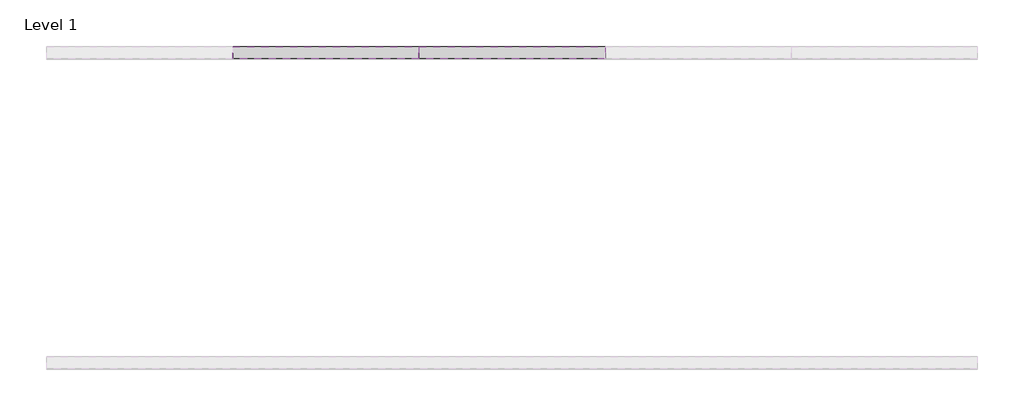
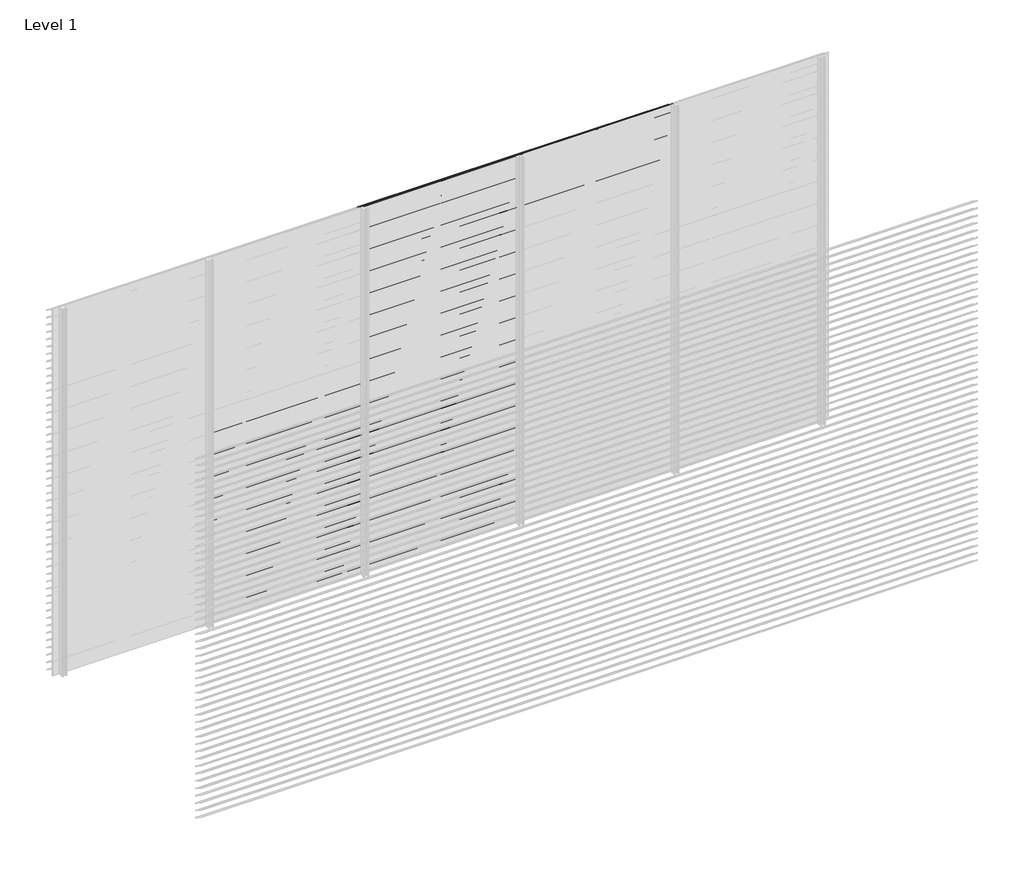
# One storey, part 85 of 153: 84 proxies.
"""IFC4 building model written with IfcOpenShell, lengths in millimetres."""

from ifc_helpers import new_model, si_unit, frame, origin, place, context, project, spatial, polyline, outline, extrude, element, save

model = new_model("IFC4")

# Units and contexts
model_context = context("Model", 3, world=origin())
ifc_project = project(units=[si_unit("LENGTHUNIT", "METRE", prefix="MILLI")], contexts=[model_context])

# Site, building, storey
site = spatial("IfcSite", under=ifc_project)
building = spatial("IfcBuilding", under=site)
storey = spatial("IfcBuildingStorey", under=building, Name="Level 1", Elevation=0.0)

# Proxies
placement = place(None, origin())
element("IfcBuildingElementProxy", 1, Name="Wall Sweeps", at=placement, inside=storey, context=model_context, shape_type="SweptSolid", body=[
    extrude(outline(polyline([(59061.0540136, 1506.0), (59061.0540136, 1500.0), (59059.8040136, 1500.7216933), (59059.8040136, 1505.2538091), (58983.0540136, 1553.9915103), (58983.0540136, 1560.0), (58984.3040136, 1560.0), (58984.3040136, 1554.7377012), (59061.0540136, 1506.0)])), frame((1666.6208099, 0.0, 0.0), z_axis=(1.0, 0.0, 0.0), x_axis=(0.0, 1.0, 0.0)), (0.0, 0.0, 1.0), 1199.9999999),
])
element("IfcBuildingElementProxy", 2, Name="Wall Sweeps", at=placement, inside=storey, context=model_context, shape_type="SweptSolid", body=[
    extrude(outline(polyline([(59061.0540136, 1446.0), (59061.0540136, 1440.0), (59059.8040136, 1440.7216933), (59059.8040136, 1445.2538091), (58983.0540136, 1493.9915103), (58983.0540136, 1500.0), (58984.3040136, 1500.0), (58984.3040136, 1494.7377012), (59061.0540136, 1446.0)])), frame((1666.6208099, 0.0, 0.0), z_axis=(1.0, 0.0, 0.0), x_axis=(0.0, 1.0, 0.0)), (0.0, 0.0, 1.0), 1199.9999999),
])
element("IfcBuildingElementProxy", 3, Name="Wall Sweeps", at=placement, inside=storey, context=model_context, shape_type="SweptSolid", body=[
    extrude(outline(polyline([(59061.0540136, 1386.0), (59061.0540136, 1380.0), (59059.8040136, 1380.7216933), (59059.8040136, 1385.2538091), (58983.0540136, 1433.9915103), (58983.0540136, 1440.0), (58984.3040136, 1440.0), (58984.3040136, 1434.7377012), (59061.0540136, 1386.0)])), frame((1666.6208099, 0.0, 0.0), z_axis=(1.0, 0.0, 0.0), x_axis=(0.0, 1.0, 0.0)), (0.0, 0.0, 1.0), 1199.9999999),
])
element("IfcBuildingElementProxy", 4, Name="Wall Sweeps", at=placement, inside=storey, context=model_context, shape_type="SweptSolid", body=[
    extrude(outline(polyline([(59061.0540136, 1326.0), (59061.0540136, 1320.0), (59059.8040136, 1320.7216933), (59059.8040136, 1325.2538091), (58983.0540136, 1373.9915103), (58983.0540136, 1380.0), (58984.3040136, 1380.0), (58984.3040136, 1374.7377012), (59061.0540136, 1326.0)])), frame((1666.6208099, 0.0, 0.0), z_axis=(1.0, 0.0, 0.0), x_axis=(0.0, 1.0, 0.0)), (0.0, 0.0, 1.0), 1199.9999999),
])
element("IfcBuildingElementProxy", 5, Name="Wall Sweeps", at=placement, inside=storey, context=model_context, shape_type="SweptSolid", body=[
    extrude(outline(polyline([(59061.0540136, 1266.0), (59061.0540136, 1260.0), (59059.8040136, 1260.7216933), (59059.8040136, 1265.2538091), (58983.0540136, 1313.9915103), (58983.0540136, 1320.0), (58984.3040136, 1320.0), (58984.3040136, 1314.7377012), (59061.0540136, 1266.0)])), frame((1666.6208099, 0.0, 0.0), z_axis=(1.0, 0.0, 0.0), x_axis=(0.0, 1.0, 0.0)), (0.0, 0.0, 1.0), 1199.9999999),
])
element("IfcBuildingElementProxy", 6, Name="Wall Sweeps", at=placement, inside=storey, context=model_context, shape_type="SweptSolid", body=[
    extrude(outline(polyline([(59061.0540136, 1206.0), (59061.0540136, 1200.0), (59059.8040136, 1200.7216933), (59059.8040136, 1205.2538091), (58983.0540136, 1253.9915103), (58983.0540136, 1260.0), (58984.3040136, 1260.0), (58984.3040136, 1254.7377012), (59061.0540136, 1206.0)])), frame((1666.6208099, 0.0, 0.0), z_axis=(1.0, 0.0, 0.0), x_axis=(0.0, 1.0, 0.0)), (0.0, 0.0, 1.0), 1199.9999999),
])
element("IfcBuildingElementProxy", 7, Name="Wall Sweeps", at=placement, inside=storey, context=model_context, shape_type="SweptSolid", body=[
    extrude(outline(polyline([(59061.0540136, 1146.0), (59061.0540136, 1140.0), (59059.8040136, 1140.7216933), (59059.8040136, 1145.2538091), (58983.0540136, 1193.9915103), (58983.0540136, 1200.0), (58984.3040136, 1200.0), (58984.3040136, 1194.7377012), (59061.0540136, 1146.0)])), frame((1666.6208099, 0.0, 0.0), z_axis=(1.0, 0.0, 0.0), x_axis=(0.0, 1.0, 0.0)), (0.0, 0.0, 1.0), 1199.9999999),
])
element("IfcBuildingElementProxy", 8, Name="Wall Sweeps", at=placement, inside=storey, context=model_context, shape_type="SweptSolid", body=[
    extrude(outline(polyline([(59061.0540136, 1086.0), (59061.0540136, 1080.0), (59059.8040136, 1080.7216933), (59059.8040136, 1085.2538091), (58983.0540136, 1133.9915103), (58983.0540136, 1140.0), (58984.3040136, 1140.0), (58984.3040136, 1134.7377012), (59061.0540136, 1086.0)])), frame((1666.6208099, 0.0, 0.0), z_axis=(1.0, 0.0, 0.0), x_axis=(0.0, 1.0, 0.0)), (0.0, 0.0, 1.0), 1199.9999999),
])
element("IfcBuildingElementProxy", 9, Name="Wall Sweeps", at=placement, inside=storey, context=model_context, shape_type="SweptSolid", body=[
    extrude(outline(polyline([(59061.0540136, 1026.0), (59061.0540136, 1020.0), (59059.8040136, 1020.7216933), (59059.8040136, 1025.2538091), (58983.0540136, 1073.9915103), (58983.0540136, 1080.0), (58984.3040136, 1080.0), (58984.3040136, 1074.7377012), (59061.0540136, 1026.0)])), frame((1666.6208099, 0.0, 0.0), z_axis=(1.0, 0.0, 0.0), x_axis=(0.0, 1.0, 0.0)), (0.0, 0.0, 1.0), 1199.9999999),
])
element("IfcBuildingElementProxy", 10, Name="Wall Sweeps", at=placement, inside=storey, context=model_context, shape_type="SweptSolid", body=[
    extrude(outline(polyline([(59061.0540136, 966.0), (59061.0540136, 960.0), (59059.8040136, 960.7216933), (59059.8040136, 965.2538091), (58983.0540136, 1013.9915103), (58983.0540136, 1020.0), (58984.3040136, 1020.0), (58984.3040136, 1014.7377012), (59061.0540136, 966.0)])), frame((1666.6208099, 0.0, 0.0), z_axis=(1.0, 0.0, 0.0), x_axis=(0.0, 1.0, 0.0)), (0.0, 0.0, 1.0), 1199.9999999),
])
element("IfcBuildingElementProxy", 11, Name="Wall Sweeps", at=placement, inside=storey, context=model_context, shape_type="SweptSolid", body=[
    extrude(outline(polyline([(59061.0540136, 906.0), (59061.0540136, 900.0), (59059.8040136, 900.7216933), (59059.8040136, 905.2538091), (58983.0540136, 953.9915103), (58983.0540136, 960.0), (58984.3040136, 960.0), (58984.3040136, 954.7377012), (59061.0540136, 906.0)])), frame((1666.6208099, 0.0, 0.0), z_axis=(1.0, 0.0, 0.0), x_axis=(0.0, 1.0, 0.0)), (0.0, 0.0, 1.0), 1199.9999999),
])
element("IfcBuildingElementProxy", 12, Name="Wall Sweeps", at=placement, inside=storey, context=model_context, shape_type="SweptSolid", body=[
    extrude(outline(polyline([(59061.0540136, 846.0), (59061.0540136, 840.0), (59059.8040136, 840.7216933), (59059.8040136, 845.2538091), (58983.0540136, 893.9915103), (58983.0540136, 900.0), (58984.3040136, 900.0), (58984.3040136, 894.7377012), (59061.0540136, 846.0)])), frame((1666.6208099, 0.0, 0.0), z_axis=(1.0, 0.0, 0.0), x_axis=(0.0, 1.0, 0.0)), (0.0, 0.0, 1.0), 1199.9999999),
])
element("IfcBuildingElementProxy", 13, Name="Wall Sweeps", at=placement, inside=storey, context=model_context, shape_type="SweptSolid", body=[
    extrude(outline(polyline([(59061.0540136, 786.0), (59061.0540136, 780.0), (59059.8040136, 780.7216933), (59059.8040136, 785.2538091), (58983.0540136, 833.9915103), (58983.0540136, 840.0), (58984.3040136, 840.0), (58984.3040136, 834.7377012), (59061.0540136, 786.0)])), frame((1666.6208099, 0.0, 0.0), z_axis=(1.0, 0.0, 0.0), x_axis=(0.0, 1.0, 0.0)), (0.0, 0.0, 1.0), 1199.9999999),
])
element("IfcBuildingElementProxy", 14, Name="Wall Sweeps", at=placement, inside=storey, context=model_context, shape_type="SweptSolid", body=[
    extrude(outline(polyline([(59061.0540136, 726.0), (59061.0540136, 720.0), (59059.8040136, 720.7216933), (59059.8040136, 725.2538091), (58983.0540136, 773.9915103), (58983.0540136, 780.0), (58984.3040136, 780.0), (58984.3040136, 774.7377012), (59061.0540136, 726.0)])), frame((1666.6208099, 0.0, 0.0), z_axis=(1.0, 0.0, 0.0), x_axis=(0.0, 1.0, 0.0)), (0.0, 0.0, 1.0), 1199.9999999),
])
element("IfcBuildingElementProxy", 15, Name="Wall Sweeps", at=placement, inside=storey, context=model_context, shape_type="SweptSolid", body=[
    extrude(outline(polyline([(59061.0540136, 666.0), (59061.0540136, 660.0), (59059.8040136, 660.7216933), (59059.8040136, 665.2538091), (58983.0540136, 713.9915103), (58983.0540136, 720.0), (58984.3040136, 720.0), (58984.3040136, 714.7377012), (59061.0540136, 666.0)])), frame((1666.6208099, 0.0, 0.0), z_axis=(1.0, 0.0, 0.0), x_axis=(0.0, 1.0, 0.0)), (0.0, 0.0, 1.0), 1199.9999999),
])
element("IfcBuildingElementProxy", 16, Name="Wall Sweeps", at=placement, inside=storey, context=model_context, shape_type="SweptSolid", body=[
    extrude(outline(polyline([(59061.0540136, 606.0), (59061.0540136, 600.0), (59059.8040136, 600.7216933), (59059.8040136, 605.2538091), (58983.0540136, 653.9915103), (58983.0540136, 660.0), (58984.3040136, 660.0), (58984.3040136, 654.7377012), (59061.0540136, 606.0)])), frame((1666.6208099, 0.0, 0.0), z_axis=(1.0, 0.0, 0.0), x_axis=(0.0, 1.0, 0.0)), (0.0, 0.0, 1.0), 1199.9999999),
])
element("IfcBuildingElementProxy", 17, Name="Wall Sweeps", at=placement, inside=storey, context=model_context, shape_type="SweptSolid", body=[
    extrude(outline(polyline([(59061.0540136, 546.0), (59061.0540136, 540.0), (59059.8040136, 540.7216933), (59059.8040136, 545.2538091), (58983.0540136, 593.9915103), (58983.0540136, 600.0), (58984.3040136, 600.0), (58984.3040136, 594.7377012), (59061.0540136, 546.0)])), frame((1666.6208099, 0.0, 0.0), z_axis=(1.0, 0.0, 0.0), x_axis=(0.0, 1.0, 0.0)), (0.0, 0.0, 1.0), 1199.9999999),
])
element("IfcBuildingElementProxy", 18, Name="Wall Sweeps", at=placement, inside=storey, context=model_context, shape_type="SweptSolid", body=[
    extrude(outline(polyline([(59061.0540136, 486.0), (59061.0540136, 480.0), (59059.8040136, 480.7216933), (59059.8040136, 485.2538091), (58983.0540136, 533.9915103), (58983.0540136, 540.0), (58984.3040136, 540.0), (58984.3040136, 534.7377012), (59061.0540136, 486.0)])), frame((1666.6208099, 0.0, 0.0), z_axis=(1.0, 0.0, 0.0), x_axis=(0.0, 1.0, 0.0)), (0.0, 0.0, 1.0), 1199.9999999),
])
element("IfcBuildingElementProxy", 19, Name="Wall Sweeps", at=placement, inside=storey, context=model_context, shape_type="SweptSolid", body=[
    extrude(outline(polyline([(59061.0540136, 426.0), (59061.0540136, 420.0), (59059.8040136, 420.7216933), (59059.8040136, 425.2538091), (58983.0540136, 473.9915103), (58983.0540136, 480.0), (58984.3040136, 480.0), (58984.3040136, 474.7377012), (59061.0540136, 426.0)])), frame((1666.6208099, 0.0, 0.0), z_axis=(1.0, 0.0, 0.0), x_axis=(0.0, 1.0, 0.0)), (0.0, 0.0, 1.0), 1199.9999999),
])
element("IfcBuildingElementProxy", 20, Name="Wall Sweeps", at=placement, inside=storey, context=model_context, shape_type="SweptSolid", body=[
    extrude(outline(polyline([(59061.0540136, 366.0), (59061.0540136, 360.0), (59059.8040136, 360.7216933), (59059.8040136, 365.2538091), (58983.0540136, 413.9915103), (58983.0540136, 420.0), (58984.3040136, 420.0), (58984.3040136, 414.7377012), (59061.0540136, 366.0)])), frame((1666.6208099, 0.0, 0.0), z_axis=(1.0, 0.0, 0.0), x_axis=(0.0, 1.0, 0.0)), (0.0, 0.0, 1.0), 1199.9999999),
])
element("IfcBuildingElementProxy", 21, Name="Wall Sweeps", at=placement, inside=storey, context=model_context, shape_type="SweptSolid", body=[
    extrude(outline(polyline([(59061.0540136, 306.0), (59061.0540136, 300.0), (59059.8040136, 300.7216933), (59059.8040136, 305.2538091), (58983.0540136, 353.9915103), (58983.0540136, 360.0), (58984.3040136, 360.0), (58984.3040136, 354.7377012), (59061.0540136, 306.0)])), frame((1666.6208099, 0.0, 0.0), z_axis=(1.0, 0.0, 0.0), x_axis=(0.0, 1.0, 0.0)), (0.0, 0.0, 1.0), 1199.9999999),
])
element("IfcBuildingElementProxy", 22, Name="Wall Sweeps", at=placement, inside=storey, context=model_context, shape_type="SweptSolid", body=[
    extrude(outline(polyline([(59061.0540136, 246.0), (59061.0540136, 240.0), (59059.8040136, 240.7216933), (59059.8040136, 245.2538091), (58983.0540136, 293.9915103), (58983.0540136, 300.0), (58984.3040136, 300.0), (58984.3040136, 294.7377012), (59061.0540136, 246.0)])), frame((1666.6208099, 0.0, 0.0), z_axis=(1.0, 0.0, 0.0), x_axis=(0.0, 1.0, 0.0)), (0.0, 0.0, 1.0), 1199.9999999),
])
element("IfcBuildingElementProxy", 23, Name="Wall Sweeps", at=placement, inside=storey, context=model_context, shape_type="SweptSolid", body=[
    extrude(outline(polyline([(59061.0540136, 186.0), (59061.0540136, 180.0), (59059.8040136, 180.7216933), (59059.8040136, 185.2538091), (58983.0540136, 233.9915103), (58983.0540136, 240.0), (58984.3040136, 240.0), (58984.3040136, 234.7377012), (59061.0540136, 186.0)])), frame((1666.6208099, 0.0, 0.0), z_axis=(1.0, 0.0, 0.0), x_axis=(0.0, 1.0, 0.0)), (0.0, 0.0, 1.0), 1199.9999999),
])
element("IfcBuildingElementProxy", 24, Name="Wall Sweeps", at=placement, inside=storey, context=model_context, shape_type="SweptSolid", body=[
    extrude(outline(polyline([(59061.0540136, 126.0), (59061.0540136, 120.0), (59059.8040136, 120.7216933), (59059.8040136, 125.2538091), (58983.0540136, 173.9915103), (58983.0540136, 180.0), (58984.3040136, 180.0), (58984.3040136, 174.7377012), (59061.0540136, 126.0)])), frame((1666.6208099, 0.0, 0.0), z_axis=(1.0, 0.0, 0.0), x_axis=(0.0, 1.0, 0.0)), (0.0, 0.0, 1.0), 1199.9999999),
])
element("IfcBuildingElementProxy", 25, Name="Wall Sweeps", at=placement, inside=storey, context=model_context, shape_type="SweptSolid", body=[
    extrude(outline(polyline([(59061.0540136, 66.0), (59061.0540136, 60.0), (59059.8040136, 60.7216933), (59059.8040136, 65.2538091), (58983.0540136, 113.9915103), (58983.0540136, 120.0), (58984.3040136, 120.0), (58984.3040136, 114.7377012), (59061.0540136, 66.0)])), frame((1666.6208099, 0.0, 0.0), z_axis=(1.0, 0.0, 0.0), x_axis=(0.0, 1.0, 0.0)), (0.0, 0.0, 1.0), 1199.9999999),
])
element("IfcBuildingElementProxy", 26, Name="Wall Sweeps", at=placement, inside=storey, context=model_context, shape_type="SweptSolid", body=[
    extrude(outline(polyline([(59061.0540136, 6.0), (59061.0540136, 0.0), (59059.8040136, 0.7216933), (59059.8040136, 5.2538091), (58983.0540136, 53.9915103), (58983.0540136, 60.0), (58984.3040136, 60.0), (58984.3040136, 54.7377012), (59061.0540136, 6.0)])), frame((1666.6208099, 0.0, 0.0), z_axis=(1.0, 0.0, 0.0), x_axis=(0.0, 1.0, 0.0)), (0.0, 0.0, 1.0), 1199.9999999),
])
element("IfcBuildingElementProxy", 27, Name="Wall Sweeps", at=placement, inside=storey, context=model_context, shape_type="SweptSolid", body=[
    extrude(outline(polyline([(59061.0540136, 2946.0), (59061.0540136, 2940.0), (59059.8040136, 2940.7216933), (59059.8040136, 2945.2538091), (58983.0540136, 2993.9915103), (58983.0540136, 3000.0), (58984.3040136, 3000.0), (58984.3040136, 2994.7377012), (59061.0540136, 2946.0)])), frame((2866.6208097, 0.0, 0.0), z_axis=(1.0, 0.0, 0.0), x_axis=(0.0, 1.0, 0.0)), (0.0, 0.0, 1.0), 1199.9999999),
])
element("IfcBuildingElementProxy", 28, Name="Wall Sweeps", at=placement, inside=storey, context=model_context, shape_type="SweptSolid", body=[
    extrude(outline(polyline([(59061.0540136, 2886.0), (59061.0540136, 2880.0), (59059.8040136, 2880.7216933), (59059.8040136, 2885.2538091), (58983.0540136, 2933.9915103), (58983.0540136, 2940.0), (58984.3040136, 2940.0), (58984.3040136, 2934.7377012), (59061.0540136, 2886.0)])), frame((2866.6208097, 0.0, 0.0), z_axis=(1.0, 0.0, 0.0), x_axis=(0.0, 1.0, 0.0)), (0.0, 0.0, 1.0), 1199.9999999),
])
element("IfcBuildingElementProxy", 29, Name="Wall Sweeps", at=placement, inside=storey, context=model_context, shape_type="SweptSolid", body=[
    extrude(outline(polyline([(59061.0540136, 2826.0), (59061.0540136, 2820.0), (59059.8040136, 2820.7216933), (59059.8040136, 2825.2538091), (58983.0540136, 2873.9915103), (58983.0540136, 2880.0), (58984.3040136, 2880.0), (58984.3040136, 2874.7377012), (59061.0540136, 2826.0)])), frame((2866.6208097, 0.0, 0.0), z_axis=(1.0, 0.0, 0.0), x_axis=(0.0, 1.0, 0.0)), (0.0, 0.0, 1.0), 1199.9999999),
])
element("IfcBuildingElementProxy", 30, Name="Wall Sweeps", at=placement, inside=storey, context=model_context, shape_type="SweptSolid", body=[
    extrude(outline(polyline([(59061.0540136, 2766.0), (59061.0540136, 2760.0), (59059.8040136, 2760.7216933), (59059.8040136, 2765.2538091), (58983.0540136, 2813.9915103), (58983.0540136, 2820.0), (58984.3040136, 2820.0), (58984.3040136, 2814.7377012), (59061.0540136, 2766.0)])), frame((2866.6208097, 0.0, 0.0), z_axis=(1.0, 0.0, 0.0), x_axis=(0.0, 1.0, 0.0)), (0.0, 0.0, 1.0), 1199.9999999),
])
element("IfcBuildingElementProxy", 31, Name="Wall Sweeps", at=placement, inside=storey, context=model_context, shape_type="SweptSolid", body=[
    extrude(outline(polyline([(59061.0540136, 2706.0), (59061.0540136, 2700.0), (59059.8040136, 2700.7216933), (59059.8040136, 2705.2538091), (58983.0540136, 2753.9915103), (58983.0540136, 2760.0), (58984.3040136, 2760.0), (58984.3040136, 2754.7377012), (59061.0540136, 2706.0)])), frame((2866.6208097, 0.0, 0.0), z_axis=(1.0, 0.0, 0.0), x_axis=(0.0, 1.0, 0.0)), (0.0, 0.0, 1.0), 1199.9999999),
])
element("IfcBuildingElementProxy", 32, Name="Wall Sweeps", at=placement, inside=storey, context=model_context, shape_type="SweptSolid", body=[
    extrude(outline(polyline([(59061.0540136, 2646.0), (59061.0540136, 2640.0), (59059.8040136, 2640.7216933), (59059.8040136, 2645.2538091), (58983.0540136, 2693.9915103), (58983.0540136, 2700.0), (58984.3040136, 2700.0), (58984.3040136, 2694.7377012), (59061.0540136, 2646.0)])), frame((2866.6208097, 0.0, 0.0), z_axis=(1.0, 0.0, 0.0), x_axis=(0.0, 1.0, 0.0)), (0.0, 0.0, 1.0), 1199.9999999),
])
element("IfcBuildingElementProxy", 33, Name="Wall Sweeps", at=placement, inside=storey, context=model_context, shape_type="SweptSolid", body=[
    extrude(outline(polyline([(59061.0540136, 2586.0), (59061.0540136, 2580.0), (59059.8040136, 2580.7216933), (59059.8040136, 2585.2538091), (58983.0540136, 2633.9915103), (58983.0540136, 2640.0), (58984.3040136, 2640.0), (58984.3040136, 2634.7377012), (59061.0540136, 2586.0)])), frame((2866.6208097, 0.0, 0.0), z_axis=(1.0, 0.0, 0.0), x_axis=(0.0, 1.0, 0.0)), (0.0, 0.0, 1.0), 1199.9999999),
])
element("IfcBuildingElementProxy", 34, Name="Wall Sweeps", at=placement, inside=storey, context=model_context, shape_type="SweptSolid", body=[
    extrude(outline(polyline([(59061.0540136, 2526.0), (59061.0540136, 2520.0), (59059.8040136, 2520.7216933), (59059.8040136, 2525.2538091), (58983.0540136, 2573.9915103), (58983.0540136, 2580.0), (58984.3040136, 2580.0), (58984.3040136, 2574.7377012), (59061.0540136, 2526.0)])), frame((2866.6208097, 0.0, 0.0), z_axis=(1.0, 0.0, 0.0), x_axis=(0.0, 1.0, 0.0)), (0.0, 0.0, 1.0), 1199.9999999),
])
element("IfcBuildingElementProxy", 35, Name="Wall Sweeps", at=placement, inside=storey, context=model_context, shape_type="SweptSolid", body=[
    extrude(outline(polyline([(59061.0540136, 2466.0), (59061.0540136, 2460.0), (59059.8040136, 2460.7216933), (59059.8040136, 2465.2538091), (58983.0540136, 2513.9915103), (58983.0540136, 2520.0), (58984.3040136, 2520.0), (58984.3040136, 2514.7377012), (59061.0540136, 2466.0)])), frame((2866.6208097, 0.0, 0.0), z_axis=(1.0, 0.0, 0.0), x_axis=(0.0, 1.0, 0.0)), (0.0, 0.0, 1.0), 1199.9999999),
])
element("IfcBuildingElementProxy", 36, Name="Wall Sweeps", at=placement, inside=storey, context=model_context, shape_type="SweptSolid", body=[
    extrude(outline(polyline([(59061.0540136, 2406.0), (59061.0540136, 2400.0), (59059.8040136, 2400.7216933), (59059.8040136, 2405.2538091), (58983.0540136, 2453.9915103), (58983.0540136, 2460.0), (58984.3040136, 2460.0), (58984.3040136, 2454.7377012), (59061.0540136, 2406.0)])), frame((2866.6208097, 0.0, 0.0), z_axis=(1.0, 0.0, 0.0), x_axis=(0.0, 1.0, 0.0)), (0.0, 0.0, 1.0), 1199.9999999),
])
element("IfcBuildingElementProxy", 37, Name="Wall Sweeps", at=placement, inside=storey, context=model_context, shape_type="SweptSolid", body=[
    extrude(outline(polyline([(59061.0540136, 2346.0), (59061.0540136, 2340.0), (59059.8040136, 2340.7216933), (59059.8040136, 2345.2538091), (58983.0540136, 2393.9915103), (58983.0540136, 2400.0), (58984.3040136, 2400.0), (58984.3040136, 2394.7377012), (59061.0540136, 2346.0)])), frame((2866.6208097, 0.0, 0.0), z_axis=(1.0, 0.0, 0.0), x_axis=(0.0, 1.0, 0.0)), (0.0, 0.0, 1.0), 1199.9999999),
])
element("IfcBuildingElementProxy", 38, Name="Wall Sweeps", at=placement, inside=storey, context=model_context, shape_type="SweptSolid", body=[
    extrude(outline(polyline([(59061.0540136, 2286.0), (59061.0540136, 2280.0), (59059.8040136, 2280.7216933), (59059.8040136, 2285.2538091), (58983.0540136, 2333.9915103), (58983.0540136, 2340.0), (58984.3040136, 2340.0), (58984.3040136, 2334.7377012), (59061.0540136, 2286.0)])), frame((2866.6208097, 0.0, 0.0), z_axis=(1.0, 0.0, 0.0), x_axis=(0.0, 1.0, 0.0)), (0.0, 0.0, 1.0), 1199.9999999),
])
element("IfcBuildingElementProxy", 39, Name="Wall Sweeps", at=placement, inside=storey, context=model_context, shape_type="SweptSolid", body=[
    extrude(outline(polyline([(59061.0540136, 2226.0), (59061.0540136, 2220.0), (59059.8040136, 2220.7216933), (59059.8040136, 2225.2538091), (58983.0540136, 2273.9915103), (58983.0540136, 2280.0), (58984.3040136, 2280.0), (58984.3040136, 2274.7377012), (59061.0540136, 2226.0)])), frame((2866.6208097, 0.0, 0.0), z_axis=(1.0, 0.0, 0.0), x_axis=(0.0, 1.0, 0.0)), (0.0, 0.0, 1.0), 1199.9999999),
])
element("IfcBuildingElementProxy", 40, Name="Wall Sweeps", at=placement, inside=storey, context=model_context, shape_type="SweptSolid", body=[
    extrude(outline(polyline([(59061.0540136, 2166.0), (59061.0540136, 2160.0), (59059.8040136, 2160.7216933), (59059.8040136, 2165.2538091), (58983.0540136, 2213.9915103), (58983.0540136, 2220.0), (58984.3040136, 2220.0), (58984.3040136, 2214.7377012), (59061.0540136, 2166.0)])), frame((2866.6208097, 0.0, 0.0), z_axis=(1.0, 0.0, 0.0), x_axis=(0.0, 1.0, 0.0)), (0.0, 0.0, 1.0), 1199.9999999),
])
element("IfcBuildingElementProxy", 41, Name="Wall Sweeps", at=placement, inside=storey, context=model_context, shape_type="SweptSolid", body=[
    extrude(outline(polyline([(59061.0540136, 2106.0), (59061.0540136, 2100.0), (59059.8040136, 2100.7216933), (59059.8040136, 2105.2538091), (58983.0540136, 2153.9915103), (58983.0540136, 2160.0), (58984.3040136, 2160.0), (58984.3040136, 2154.7377012), (59061.0540136, 2106.0)])), frame((2866.6208097, 0.0, 0.0), z_axis=(1.0, 0.0, 0.0), x_axis=(0.0, 1.0, 0.0)), (0.0, 0.0, 1.0), 1199.9999999),
])
element("IfcBuildingElementProxy", 42, Name="Wall Sweeps", at=placement, inside=storey, context=model_context, shape_type="SweptSolid", body=[
    extrude(outline(polyline([(59061.0540136, 2046.0), (59061.0540136, 2040.0), (59059.8040136, 2040.7216933), (59059.8040136, 2045.2538091), (58983.0540136, 2093.9915103), (58983.0540136, 2100.0), (58984.3040136, 2100.0), (58984.3040136, 2094.7377012), (59061.0540136, 2046.0)])), frame((2866.6208097, 0.0, 0.0), z_axis=(1.0, 0.0, 0.0), x_axis=(0.0, 1.0, 0.0)), (0.0, 0.0, 1.0), 1199.9999999),
])
element("IfcBuildingElementProxy", 43, Name="Wall Sweeps", at=placement, inside=storey, context=model_context, shape_type="SweptSolid", body=[
    extrude(outline(polyline([(59061.0540136, 1986.0), (59061.0540136, 1980.0), (59059.8040136, 1980.7216933), (59059.8040136, 1985.2538091), (58983.0540136, 2033.9915103), (58983.0540136, 2040.0), (58984.3040136, 2040.0), (58984.3040136, 2034.7377012), (59061.0540136, 1986.0)])), frame((2866.6208097, 0.0, 0.0), z_axis=(1.0, 0.0, 0.0), x_axis=(0.0, 1.0, 0.0)), (0.0, 0.0, 1.0), 1199.9999999),
])
element("IfcBuildingElementProxy", 44, Name="Wall Sweeps", at=placement, inside=storey, context=model_context, shape_type="SweptSolid", body=[
    extrude(outline(polyline([(59061.0540136, 1926.0), (59061.0540136, 1920.0), (59059.8040136, 1920.7216933), (59059.8040136, 1925.2538091), (58983.0540136, 1973.9915103), (58983.0540136, 1980.0), (58984.3040136, 1980.0), (58984.3040136, 1974.7377012), (59061.0540136, 1926.0)])), frame((2866.6208097, 0.0, 0.0), z_axis=(1.0, 0.0, 0.0), x_axis=(0.0, 1.0, 0.0)), (0.0, 0.0, 1.0), 1199.9999999),
])
element("IfcBuildingElementProxy", 45, Name="Wall Sweeps", at=placement, inside=storey, context=model_context, shape_type="SweptSolid", body=[
    extrude(outline(polyline([(59061.0540136, 1866.0), (59061.0540136, 1860.0), (59059.8040136, 1860.7216933), (59059.8040136, 1865.2538091), (58983.0540136, 1913.9915103), (58983.0540136, 1920.0), (58984.3040136, 1920.0), (58984.3040136, 1914.7377012), (59061.0540136, 1866.0)])), frame((2866.6208097, 0.0, 0.0), z_axis=(1.0, 0.0, 0.0), x_axis=(0.0, 1.0, 0.0)), (0.0, 0.0, 1.0), 1199.9999999),
])
element("IfcBuildingElementProxy", 46, Name="Wall Sweeps", at=placement, inside=storey, context=model_context, shape_type="SweptSolid", body=[
    extrude(outline(polyline([(59061.0540136, 1806.0), (59061.0540136, 1800.0), (59059.8040136, 1800.7216933), (59059.8040136, 1805.2538091), (58983.0540136, 1853.9915103), (58983.0540136, 1860.0), (58984.3040136, 1860.0), (58984.3040136, 1854.7377012), (59061.0540136, 1806.0)])), frame((2866.6208097, 0.0, 0.0), z_axis=(1.0, 0.0, 0.0), x_axis=(0.0, 1.0, 0.0)), (0.0, 0.0, 1.0), 1199.9999999),
])
element("IfcBuildingElementProxy", 47, Name="Wall Sweeps", at=placement, inside=storey, context=model_context, shape_type="SweptSolid", body=[
    extrude(outline(polyline([(59061.0540136, 1746.0), (59061.0540136, 1740.0), (59059.8040136, 1740.7216933), (59059.8040136, 1745.2538091), (58983.0540136, 1793.9915103), (58983.0540136, 1800.0), (58984.3040136, 1800.0), (58984.3040136, 1794.7377012), (59061.0540136, 1746.0)])), frame((2866.6208097, 0.0, 0.0), z_axis=(1.0, 0.0, 0.0), x_axis=(0.0, 1.0, 0.0)), (0.0, 0.0, 1.0), 1199.9999999),
])
element("IfcBuildingElementProxy", 48, Name="Wall Sweeps", at=placement, inside=storey, context=model_context, shape_type="SweptSolid", body=[
    extrude(outline(polyline([(59061.0540136, 1686.0), (59061.0540136, 1680.0), (59059.8040136, 1680.7216933), (59059.8040136, 1685.2538091), (58983.0540136, 1733.9915103), (58983.0540136, 1740.0), (58984.3040136, 1740.0), (58984.3040136, 1734.7377012), (59061.0540136, 1686.0)])), frame((2866.6208097, 0.0, 0.0), z_axis=(1.0, 0.0, 0.0), x_axis=(0.0, 1.0, 0.0)), (0.0, 0.0, 1.0), 1199.9999999),
])
element("IfcBuildingElementProxy", 49, Name="Wall Sweeps", at=placement, inside=storey, context=model_context, shape_type="SweptSolid", body=[
    extrude(outline(polyline([(59061.0540136, 1626.0), (59061.0540136, 1620.0), (59059.8040136, 1620.7216933), (59059.8040136, 1625.2538091), (58983.0540136, 1673.9915103), (58983.0540136, 1680.0), (58984.3040136, 1680.0), (58984.3040136, 1674.7377012), (59061.0540136, 1626.0)])), frame((2866.6208097, 0.0, 0.0), z_axis=(1.0, 0.0, 0.0), x_axis=(0.0, 1.0, 0.0)), (0.0, 0.0, 1.0), 1199.9999999),
])
element("IfcBuildingElementProxy", 50, Name="Wall Sweeps", at=placement, inside=storey, context=model_context, shape_type="SweptSolid", body=[
    extrude(outline(polyline([(59061.0540136, 1566.0), (59061.0540136, 1560.0), (59059.8040136, 1560.7216933), (59059.8040136, 1565.2538091), (58983.0540136, 1613.9915103), (58983.0540136, 1620.0), (58984.3040136, 1620.0), (58984.3040136, 1614.7377012), (59061.0540136, 1566.0)])), frame((2866.6208097, 0.0, 0.0), z_axis=(1.0, 0.0, 0.0), x_axis=(0.0, 1.0, 0.0)), (0.0, 0.0, 1.0), 1199.9999999),
])
element("IfcBuildingElementProxy", 51, Name="Wall Sweeps", at=placement, inside=storey, context=model_context, shape_type="SweptSolid", body=[
    extrude(outline(polyline([(59061.0540136, 1506.0), (59061.0540136, 1500.0), (59059.8040136, 1500.7216933), (59059.8040136, 1505.2538091), (58983.0540136, 1553.9915103), (58983.0540136, 1560.0), (58984.3040136, 1560.0), (58984.3040136, 1554.7377012), (59061.0540136, 1506.0)])), frame((2866.6208097, 0.0, 0.0), z_axis=(1.0, 0.0, 0.0), x_axis=(0.0, 1.0, 0.0)), (0.0, 0.0, 1.0), 1199.9999999),
])
element("IfcBuildingElementProxy", 52, Name="Wall Sweeps", at=placement, inside=storey, context=model_context, shape_type="SweptSolid", body=[
    extrude(outline(polyline([(59061.0540136, 1446.0), (59061.0540136, 1440.0), (59059.8040136, 1440.7216933), (59059.8040136, 1445.2538091), (58983.0540136, 1493.9915103), (58983.0540136, 1500.0), (58984.3040136, 1500.0), (58984.3040136, 1494.7377012), (59061.0540136, 1446.0)])), frame((2866.6208097, 0.0, 0.0), z_axis=(1.0, 0.0, 0.0), x_axis=(0.0, 1.0, 0.0)), (0.0, 0.0, 1.0), 1199.9999999),
])
element("IfcBuildingElementProxy", 53, Name="Wall Sweeps", at=placement, inside=storey, context=model_context, shape_type="SweptSolid", body=[
    extrude(outline(polyline([(59061.0540136, 1386.0), (59061.0540136, 1380.0), (59059.8040136, 1380.7216933), (59059.8040136, 1385.2538091), (58983.0540136, 1433.9915103), (58983.0540136, 1440.0), (58984.3040136, 1440.0), (58984.3040136, 1434.7377012), (59061.0540136, 1386.0)])), frame((2866.6208097, 0.0, 0.0), z_axis=(1.0, 0.0, 0.0), x_axis=(0.0, 1.0, 0.0)), (0.0, 0.0, 1.0), 1199.9999999),
])
element("IfcBuildingElementProxy", 54, Name="Wall Sweeps", at=placement, inside=storey, context=model_context, shape_type="SweptSolid", body=[
    extrude(outline(polyline([(59061.0540136, 1326.0), (59061.0540136, 1320.0), (59059.8040136, 1320.7216933), (59059.8040136, 1325.2538091), (58983.0540136, 1373.9915103), (58983.0540136, 1380.0), (58984.3040136, 1380.0), (58984.3040136, 1374.7377012), (59061.0540136, 1326.0)])), frame((2866.6208097, 0.0, 0.0), z_axis=(1.0, 0.0, 0.0), x_axis=(0.0, 1.0, 0.0)), (0.0, 0.0, 1.0), 1199.9999999),
])
element("IfcBuildingElementProxy", 55, Name="Wall Sweeps", at=placement, inside=storey, context=model_context, shape_type="SweptSolid", body=[
    extrude(outline(polyline([(59061.0540136, 1266.0), (59061.0540136, 1260.0), (59059.8040136, 1260.7216933), (59059.8040136, 1265.2538091), (58983.0540136, 1313.9915103), (58983.0540136, 1320.0), (58984.3040136, 1320.0), (58984.3040136, 1314.7377012), (59061.0540136, 1266.0)])), frame((2866.6208097, 0.0, 0.0), z_axis=(1.0, 0.0, 0.0), x_axis=(0.0, 1.0, 0.0)), (0.0, 0.0, 1.0), 1199.9999999),
])
element("IfcBuildingElementProxy", 56, Name="Wall Sweeps", at=placement, inside=storey, context=model_context, shape_type="SweptSolid", body=[
    extrude(outline(polyline([(59061.0540136, 1206.0), (59061.0540136, 1200.0), (59059.8040136, 1200.7216933), (59059.8040136, 1205.2538091), (58983.0540136, 1253.9915103), (58983.0540136, 1260.0), (58984.3040136, 1260.0), (58984.3040136, 1254.7377012), (59061.0540136, 1206.0)])), frame((2866.6208097, 0.0, 0.0), z_axis=(1.0, 0.0, 0.0), x_axis=(0.0, 1.0, 0.0)), (0.0, 0.0, 1.0), 1199.9999999),
])
element("IfcBuildingElementProxy", 57, Name="Wall Sweeps", at=placement, inside=storey, context=model_context, shape_type="SweptSolid", body=[
    extrude(outline(polyline([(59061.0540136, 1146.0), (59061.0540136, 1140.0), (59059.8040136, 1140.7216933), (59059.8040136, 1145.2538091), (58983.0540136, 1193.9915103), (58983.0540136, 1200.0), (58984.3040136, 1200.0), (58984.3040136, 1194.7377012), (59061.0540136, 1146.0)])), frame((2866.6208097, 0.0, 0.0), z_axis=(1.0, 0.0, 0.0), x_axis=(0.0, 1.0, 0.0)), (0.0, 0.0, 1.0), 1199.9999999),
])
element("IfcBuildingElementProxy", 58, Name="Wall Sweeps", at=placement, inside=storey, context=model_context, shape_type="SweptSolid", body=[
    extrude(outline(polyline([(59061.0540136, 1086.0), (59061.0540136, 1080.0), (59059.8040136, 1080.7216933), (59059.8040136, 1085.2538091), (58983.0540136, 1133.9915103), (58983.0540136, 1140.0), (58984.3040136, 1140.0), (58984.3040136, 1134.7377012), (59061.0540136, 1086.0)])), frame((2866.6208097, 0.0, 0.0), z_axis=(1.0, 0.0, 0.0), x_axis=(0.0, 1.0, 0.0)), (0.0, 0.0, 1.0), 1199.9999999),
])
element("IfcBuildingElementProxy", 59, Name="Wall Sweeps", at=placement, inside=storey, context=model_context, shape_type="SweptSolid", body=[
    extrude(outline(polyline([(59061.0540136, 1026.0), (59061.0540136, 1020.0), (59059.8040136, 1020.7216933), (59059.8040136, 1025.2538091), (58983.0540136, 1073.9915103), (58983.0540136, 1080.0), (58984.3040136, 1080.0), (58984.3040136, 1074.7377012), (59061.0540136, 1026.0)])), frame((2866.6208097, 0.0, 0.0), z_axis=(1.0, 0.0, 0.0), x_axis=(0.0, 1.0, 0.0)), (0.0, 0.0, 1.0), 1199.9999999),
])
element("IfcBuildingElementProxy", 60, Name="Wall Sweeps", at=placement, inside=storey, context=model_context, shape_type="SweptSolid", body=[
    extrude(outline(polyline([(59061.0540136, 966.0), (59061.0540136, 960.0), (59059.8040136, 960.7216933), (59059.8040136, 965.2538091), (58983.0540136, 1013.9915103), (58983.0540136, 1020.0), (58984.3040136, 1020.0), (58984.3040136, 1014.7377012), (59061.0540136, 966.0)])), frame((2866.6208097, 0.0, 0.0), z_axis=(1.0, 0.0, 0.0), x_axis=(0.0, 1.0, 0.0)), (0.0, 0.0, 1.0), 1199.9999999),
])
element("IfcBuildingElementProxy", 61, Name="Wall Sweeps", at=placement, inside=storey, context=model_context, shape_type="SweptSolid", body=[
    extrude(outline(polyline([(59061.0540136, 906.0), (59061.0540136, 900.0), (59059.8040136, 900.7216933), (59059.8040136, 905.2538091), (58983.0540136, 953.9915103), (58983.0540136, 960.0), (58984.3040136, 960.0), (58984.3040136, 954.7377012), (59061.0540136, 906.0)])), frame((2866.6208097, 0.0, 0.0), z_axis=(1.0, 0.0, 0.0), x_axis=(0.0, 1.0, 0.0)), (0.0, 0.0, 1.0), 1199.9999999),
])
element("IfcBuildingElementProxy", 62, Name="Wall Sweeps", at=placement, inside=storey, context=model_context, shape_type="SweptSolid", body=[
    extrude(outline(polyline([(59061.0540136, 846.0), (59061.0540136, 840.0), (59059.8040136, 840.7216933), (59059.8040136, 845.2538091), (58983.0540136, 893.9915103), (58983.0540136, 900.0), (58984.3040136, 900.0), (58984.3040136, 894.7377012), (59061.0540136, 846.0)])), frame((2866.6208097, 0.0, 0.0), z_axis=(1.0, 0.0, 0.0), x_axis=(0.0, 1.0, 0.0)), (0.0, 0.0, 1.0), 1199.9999999),
])
element("IfcBuildingElementProxy", 63, Name="Wall Sweeps", at=placement, inside=storey, context=model_context, shape_type="SweptSolid", body=[
    extrude(outline(polyline([(59061.0540136, 786.0), (59061.0540136, 780.0), (59059.8040136, 780.7216933), (59059.8040136, 785.2538091), (58983.0540136, 833.9915103), (58983.0540136, 840.0), (58984.3040136, 840.0), (58984.3040136, 834.7377012), (59061.0540136, 786.0)])), frame((2866.6208097, 0.0, 0.0), z_axis=(1.0, 0.0, 0.0), x_axis=(0.0, 1.0, 0.0)), (0.0, 0.0, 1.0), 1199.9999999),
])
element("IfcBuildingElementProxy", 64, Name="Wall Sweeps", at=placement, inside=storey, context=model_context, shape_type="SweptSolid", body=[
    extrude(outline(polyline([(59061.0540136, 726.0), (59061.0540136, 720.0), (59059.8040136, 720.7216933), (59059.8040136, 725.2538091), (58983.0540136, 773.9915103), (58983.0540136, 780.0), (58984.3040136, 780.0), (58984.3040136, 774.7377012), (59061.0540136, 726.0)])), frame((2866.6208097, 0.0, 0.0), z_axis=(1.0, 0.0, 0.0), x_axis=(0.0, 1.0, 0.0)), (0.0, 0.0, 1.0), 1199.9999999),
])
element("IfcBuildingElementProxy", 65, Name="Wall Sweeps", at=placement, inside=storey, context=model_context, shape_type="SweptSolid", body=[
    extrude(outline(polyline([(59061.0540136, 666.0), (59061.0540136, 660.0), (59059.8040136, 660.7216933), (59059.8040136, 665.2538091), (58983.0540136, 713.9915103), (58983.0540136, 720.0), (58984.3040136, 720.0), (58984.3040136, 714.7377012), (59061.0540136, 666.0)])), frame((2866.6208097, 0.0, 0.0), z_axis=(1.0, 0.0, 0.0), x_axis=(0.0, 1.0, 0.0)), (0.0, 0.0, 1.0), 1199.9999999),
])
element("IfcBuildingElementProxy", 66, Name="Wall Sweeps", at=placement, inside=storey, context=model_context, shape_type="SweptSolid", body=[
    extrude(outline(polyline([(59061.0540136, 606.0), (59061.0540136, 600.0), (59059.8040136, 600.7216933), (59059.8040136, 605.2538091), (58983.0540136, 653.9915103), (58983.0540136, 660.0), (58984.3040136, 660.0), (58984.3040136, 654.7377012), (59061.0540136, 606.0)])), frame((2866.6208097, 0.0, 0.0), z_axis=(1.0, 0.0, 0.0), x_axis=(0.0, 1.0, 0.0)), (0.0, 0.0, 1.0), 1199.9999999),
])
element("IfcBuildingElementProxy", 67, Name="Wall Sweeps", at=placement, inside=storey, context=model_context, shape_type="SweptSolid", body=[
    extrude(outline(polyline([(59061.0540136, 546.0), (59061.0540136, 540.0), (59059.8040136, 540.7216933), (59059.8040136, 545.2538091), (58983.0540136, 593.9915103), (58983.0540136, 600.0), (58984.3040136, 600.0), (58984.3040136, 594.7377012), (59061.0540136, 546.0)])), frame((2866.6208097, 0.0, 0.0), z_axis=(1.0, 0.0, 0.0), x_axis=(0.0, 1.0, 0.0)), (0.0, 0.0, 1.0), 1199.9999999),
])
element("IfcBuildingElementProxy", 68, Name="Wall Sweeps", at=placement, inside=storey, context=model_context, shape_type="SweptSolid", body=[
    extrude(outline(polyline([(59061.0540136, 486.0), (59061.0540136, 480.0), (59059.8040136, 480.7216933), (59059.8040136, 485.2538091), (58983.0540136, 533.9915103), (58983.0540136, 540.0), (58984.3040136, 540.0), (58984.3040136, 534.7377012), (59061.0540136, 486.0)])), frame((2866.6208097, 0.0, 0.0), z_axis=(1.0, 0.0, 0.0), x_axis=(0.0, 1.0, 0.0)), (0.0, 0.0, 1.0), 1199.9999999),
])
element("IfcBuildingElementProxy", 69, Name="Wall Sweeps", at=placement, inside=storey, context=model_context, shape_type="SweptSolid", body=[
    extrude(outline(polyline([(59061.0540136, 426.0), (59061.0540136, 420.0), (59059.8040136, 420.7216933), (59059.8040136, 425.2538091), (58983.0540136, 473.9915103), (58983.0540136, 480.0), (58984.3040136, 480.0), (58984.3040136, 474.7377012), (59061.0540136, 426.0)])), frame((2866.6208097, 0.0, 0.0), z_axis=(1.0, 0.0, 0.0), x_axis=(0.0, 1.0, 0.0)), (0.0, 0.0, 1.0), 1199.9999999),
])
element("IfcBuildingElementProxy", 70, Name="Wall Sweeps", at=placement, inside=storey, context=model_context, shape_type="SweptSolid", body=[
    extrude(outline(polyline([(59061.0540136, 366.0), (59061.0540136, 360.0), (59059.8040136, 360.7216933), (59059.8040136, 365.2538091), (58983.0540136, 413.9915103), (58983.0540136, 420.0), (58984.3040136, 420.0), (58984.3040136, 414.7377012), (59061.0540136, 366.0)])), frame((2866.6208097, 0.0, 0.0), z_axis=(1.0, 0.0, 0.0), x_axis=(0.0, 1.0, 0.0)), (0.0, 0.0, 1.0), 1199.9999999),
])
element("IfcBuildingElementProxy", 71, Name="Wall Sweeps", at=placement, inside=storey, context=model_context, shape_type="SweptSolid", body=[
    extrude(outline(polyline([(59061.0540136, 306.0), (59061.0540136, 300.0), (59059.8040136, 300.7216933), (59059.8040136, 305.2538091), (58983.0540136, 353.9915103), (58983.0540136, 360.0), (58984.3040136, 360.0), (58984.3040136, 354.7377012), (59061.0540136, 306.0)])), frame((2866.6208097, 0.0, 0.0), z_axis=(1.0, 0.0, 0.0), x_axis=(0.0, 1.0, 0.0)), (0.0, 0.0, 1.0), 1199.9999999),
])
element("IfcBuildingElementProxy", 72, Name="Wall Sweeps", at=placement, inside=storey, context=model_context, shape_type="SweptSolid", body=[
    extrude(outline(polyline([(59061.0540136, 246.0), (59061.0540136, 240.0), (59059.8040136, 240.7216933), (59059.8040136, 245.2538091), (58983.0540136, 293.9915103), (58983.0540136, 300.0), (58984.3040136, 300.0), (58984.3040136, 294.7377012), (59061.0540136, 246.0)])), frame((2866.6208097, 0.0, 0.0), z_axis=(1.0, 0.0, 0.0), x_axis=(0.0, 1.0, 0.0)), (0.0, 0.0, 1.0), 1199.9999999),
])
element("IfcBuildingElementProxy", 73, Name="Wall Sweeps", at=placement, inside=storey, context=model_context, shape_type="SweptSolid", body=[
    extrude(outline(polyline([(59061.0540136, 186.0), (59061.0540136, 180.0), (59059.8040136, 180.7216933), (59059.8040136, 185.2538091), (58983.0540136, 233.9915103), (58983.0540136, 240.0), (58984.3040136, 240.0), (58984.3040136, 234.7377012), (59061.0540136, 186.0)])), frame((2866.6208097, 0.0, 0.0), z_axis=(1.0, 0.0, 0.0), x_axis=(0.0, 1.0, 0.0)), (0.0, 0.0, 1.0), 1199.9999999),
])
element("IfcBuildingElementProxy", 74, Name="Wall Sweeps", at=placement, inside=storey, context=model_context, shape_type="SweptSolid", body=[
    extrude(outline(polyline([(59061.0540136, 126.0), (59061.0540136, 120.0), (59059.8040136, 120.7216933), (59059.8040136, 125.2538091), (58983.0540136, 173.9915103), (58983.0540136, 180.0), (58984.3040136, 180.0), (58984.3040136, 174.7377012), (59061.0540136, 126.0)])), frame((2866.6208097, 0.0, 0.0), z_axis=(1.0, 0.0, 0.0), x_axis=(0.0, 1.0, 0.0)), (0.0, 0.0, 1.0), 1199.9999999),
])
element("IfcBuildingElementProxy", 75, Name="Wall Sweeps", at=placement, inside=storey, context=model_context, shape_type="SweptSolid", body=[
    extrude(outline(polyline([(59061.0540136, 66.0), (59061.0540136, 60.0), (59059.8040136, 60.7216933), (59059.8040136, 65.2538091), (58983.0540136, 113.9915103), (58983.0540136, 120.0), (58984.3040136, 120.0), (58984.3040136, 114.7377012), (59061.0540136, 66.0)])), frame((2866.6208097, 0.0, 0.0), z_axis=(1.0, 0.0, 0.0), x_axis=(0.0, 1.0, 0.0)), (0.0, 0.0, 1.0), 1199.9999999),
])
element("IfcBuildingElementProxy", 76, Name="Wall Sweeps", at=placement, inside=storey, context=model_context, shape_type="SweptSolid", body=[
    extrude(outline(polyline([(59061.0540136, 6.0), (59061.0540136, 0.0), (59059.8040136, 0.7216933), (59059.8040136, 5.2538091), (58983.0540136, 53.9915103), (58983.0540136, 60.0), (58984.3040136, 60.0), (58984.3040136, 54.7377012), (59061.0540136, 6.0)])), frame((2866.6208097, 0.0, 0.0), z_axis=(1.0, 0.0, 0.0), x_axis=(0.0, 1.0, 0.0)), (0.0, 0.0, 1.0), 1199.9999999),
])
element("IfcBuildingElementProxy", 77, Name="Wall Sweeps", at=placement, inside=storey, context=model_context, shape_type="SweptSolid", body=[
    extrude(outline(polyline([(59061.0540136, 2946.0), (59061.0540136, 2940.0), (59059.8040136, 2940.7216933), (59059.8040136, 2945.2538091), (58983.0540136, 2993.9915103), (58983.0540136, 3000.0), (58984.3040136, 3000.0), (58984.3040136, 2994.7377012), (59061.0540136, 2946.0)])), frame((4066.6208096, 0.0, 0.0), z_axis=(1.0, 0.0, 0.0), x_axis=(0.0, 1.0, 0.0)), (0.0, 0.0, 1.0), 1199.9999999),
])
element("IfcBuildingElementProxy", 78, Name="Wall Sweeps", at=placement, inside=storey, context=model_context, shape_type="SweptSolid", body=[
    extrude(outline(polyline([(59061.0540136, 2886.0), (59061.0540136, 2880.0), (59059.8040136, 2880.7216933), (59059.8040136, 2885.2538091), (58983.0540136, 2933.9915103), (58983.0540136, 2940.0), (58984.3040136, 2940.0), (58984.3040136, 2934.7377012), (59061.0540136, 2886.0)])), frame((4066.6208096, 0.0, 0.0), z_axis=(1.0, 0.0, 0.0), x_axis=(0.0, 1.0, 0.0)), (0.0, 0.0, 1.0), 1199.9999999),
])
element("IfcBuildingElementProxy", 79, Name="Wall Sweeps", at=placement, inside=storey, context=model_context, shape_type="SweptSolid", body=[
    extrude(outline(polyline([(59061.0540136, 2826.0), (59061.0540136, 2820.0), (59059.8040136, 2820.7216933), (59059.8040136, 2825.2538091), (58983.0540136, 2873.9915103), (58983.0540136, 2880.0), (58984.3040136, 2880.0), (58984.3040136, 2874.7377012), (59061.0540136, 2826.0)])), frame((4066.6208096, 0.0, 0.0), z_axis=(1.0, 0.0, 0.0), x_axis=(0.0, 1.0, 0.0)), (0.0, 0.0, 1.0), 1199.9999999),
])
element("IfcBuildingElementProxy", 80, Name="Wall Sweeps", at=placement, inside=storey, context=model_context, shape_type="SweptSolid", body=[
    extrude(outline(polyline([(59061.0540136, 2766.0), (59061.0540136, 2760.0), (59059.8040136, 2760.7216933), (59059.8040136, 2765.2538091), (58983.0540136, 2813.9915103), (58983.0540136, 2820.0), (58984.3040136, 2820.0), (58984.3040136, 2814.7377012), (59061.0540136, 2766.0)])), frame((4066.6208096, 0.0, 0.0), z_axis=(1.0, 0.0, 0.0), x_axis=(0.0, 1.0, 0.0)), (0.0, 0.0, 1.0), 1199.9999999),
])
element("IfcBuildingElementProxy", 81, Name="Wall Sweeps", at=placement, inside=storey, context=model_context, shape_type="SweptSolid", body=[
    extrude(outline(polyline([(59061.0540136, 2706.0), (59061.0540136, 2700.0), (59059.8040136, 2700.7216933), (59059.8040136, 2705.2538091), (58983.0540136, 2753.9915103), (58983.0540136, 2760.0), (58984.3040136, 2760.0), (58984.3040136, 2754.7377012), (59061.0540136, 2706.0)])), frame((4066.6208096, 0.0, 0.0), z_axis=(1.0, 0.0, 0.0), x_axis=(0.0, 1.0, 0.0)), (0.0, 0.0, 1.0), 1199.9999999),
])
element("IfcBuildingElementProxy", 82, Name="Wall Sweeps", at=placement, inside=storey, context=model_context, shape_type="SweptSolid", body=[
    extrude(outline(polyline([(59061.0540136, 2646.0), (59061.0540136, 2640.0), (59059.8040136, 2640.7216933), (59059.8040136, 2645.2538091), (58983.0540136, 2693.9915103), (58983.0540136, 2700.0), (58984.3040136, 2700.0), (58984.3040136, 2694.7377012), (59061.0540136, 2646.0)])), frame((4066.6208096, 0.0, 0.0), z_axis=(1.0, 0.0, 0.0), x_axis=(0.0, 1.0, 0.0)), (0.0, 0.0, 1.0), 1199.9999999),
])
element("IfcBuildingElementProxy", 83, Name="Wall Sweeps", at=placement, inside=storey, context=model_context, shape_type="SweptSolid", body=[
    extrude(outline(polyline([(59061.0540136, 2586.0), (59061.0540136, 2580.0), (59059.8040136, 2580.7216933), (59059.8040136, 2585.2538091), (58983.0540136, 2633.9915103), (58983.0540136, 2640.0), (58984.3040136, 2640.0), (58984.3040136, 2634.7377012), (59061.0540136, 2586.0)])), frame((4066.6208096, 0.0, 0.0), z_axis=(1.0, 0.0, 0.0), x_axis=(0.0, 1.0, 0.0)), (0.0, 0.0, 1.0), 1199.9999999),
])
element("IfcBuildingElementProxy", 84, Name="Wall Sweeps", at=placement, inside=storey, context=model_context, shape_type="SweptSolid", body=[
    extrude(outline(polyline([(59061.0540136, 2526.0), (59061.0540136, 2520.0), (59059.8040136, 2520.7216933), (59059.8040136, 2525.2538091), (58983.0540136, 2573.9915103), (58983.0540136, 2580.0), (58984.3040136, 2580.0), (58984.3040136, 2574.7377012), (59061.0540136, 2526.0)])), frame((4066.6208096, 0.0, 0.0), z_axis=(1.0, 0.0, 0.0), x_axis=(0.0, 1.0, 0.0)), (0.0, 0.0, 1.0), 1199.9999999),
])

save(model, "model.ifc")
